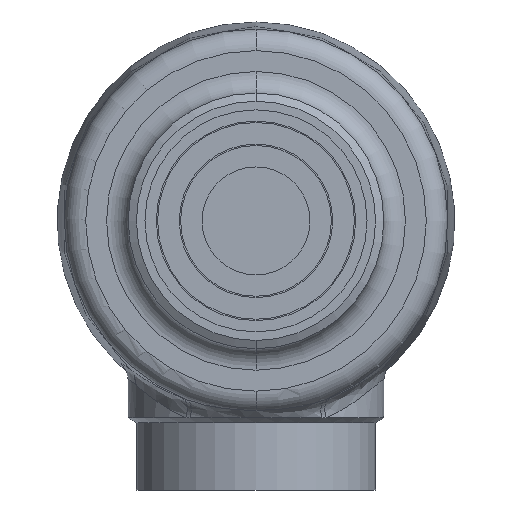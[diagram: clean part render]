
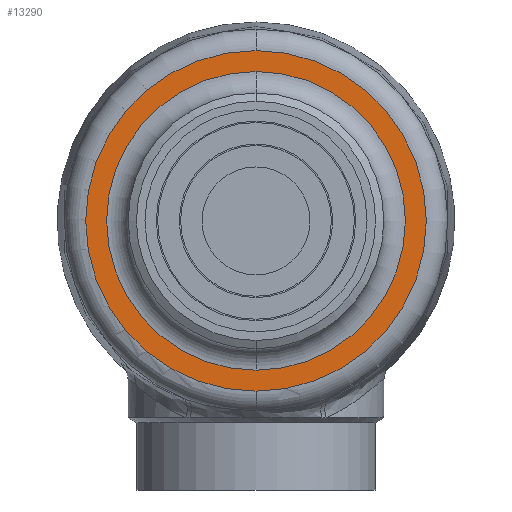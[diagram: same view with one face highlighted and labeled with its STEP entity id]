
A CAD part, front view. The second image highlights one B-rep face of the part: STEP entity #13290.
In plain terms, the highlighted planar face has unit normal (0, -1, 0).
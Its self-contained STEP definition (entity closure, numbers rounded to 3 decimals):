
#250 = CARTESIAN_POINT ( 'NONE',  ( 0., -129., -63.274 ) ) ;
#1872 = VERTEX_POINT ( 'NONE', #15174 ) ;
#2786 = ORIENTED_EDGE ( 'NONE', *, *, #8197, .T. ) ;
#2899 = CIRCLE ( 'NONE', #2900, 63.274 ) ;
#2900 = AXIS2_PLACEMENT_3D ( 'NONE', #2901, #2902, #2903 ) ;
#2901 = CARTESIAN_POINT ( 'NONE',  ( 0., -129., 0. ) ) ;
#2902 = DIRECTION ( 'NONE',  ( 0., -1., 0. ) ) ;
#2903 = DIRECTION ( 'NONE',  ( 0., 0., -1. ) ) ;
#3452 = VERTEX_POINT ( 'NONE', #250 ) ;
#3574 = FACE_BOUND ( 'NONE', #13091, .T. ) ;
#3575 = FACE_OUTER_BOUND ( 'NONE', #8800, .T. ) ;
#3576 = PLANE ( 'NONE',  #3579 ) ;
#3579 = AXIS2_PLACEMENT_3D ( 'NONE', #3580, #3581, #3582 ) ;
#3580 = CARTESIAN_POINT ( 'NONE',  ( 0., -129., 0. ) ) ;
#3581 = DIRECTION ( 'NONE',  ( 0., -1., 0. ) ) ;
#3582 = DIRECTION ( 'NONE',  ( 0., 0., -1. ) ) ;
#3966 = CIRCLE ( 'NONE', #3967, 55.5 ) ;
#3967 = AXIS2_PLACEMENT_3D ( 'NONE', #3968, #3969, #3970 ) ;
#3968 = CARTESIAN_POINT ( 'NONE',  ( 0., -129., 0. ) ) ;
#3969 = DIRECTION ( 'NONE',  ( 0., 1., 0. ) ) ;
#3970 = DIRECTION ( 'NONE',  ( 0., 0., -1. ) ) ;
#3990 = CARTESIAN_POINT ( 'NONE',  ( 0., -129., 63.274 ) ) ;
#4035 = CIRCLE ( 'NONE', #4036, 63.274 ) ;
#4036 = AXIS2_PLACEMENT_3D ( 'NONE', #4037, #4038, #4039 ) ;
#4037 = CARTESIAN_POINT ( 'NONE',  ( 0., -129., 0. ) ) ;
#4038 = DIRECTION ( 'NONE',  ( 0., -1., 0. ) ) ;
#4039 = DIRECTION ( 'NONE',  ( 0., 0., -1. ) ) ;
#5594 = ORIENTED_EDGE ( 'NONE', *, *, #13328, .T. ) ;
#8197 = EDGE_CURVE ( 'NONE', #3452, #9057, #2899, .T. ) ;
#8800 = EDGE_LOOP ( 'NONE', ( #2786, #5594 ) ) ;
#9038 = EDGE_CURVE ( 'NONE', #11251, #1872, #3966, .T. ) ;
#9057 = VERTEX_POINT ( 'NONE', #3990 ) ;
#9401 = ORIENTED_EDGE ( 'NONE', *, *, #9038, .T. ) ;
#9871 = ORIENTED_EDGE ( 'NONE', *, *, #10663, .T. ) ;
#10663 = EDGE_CURVE ( 'NONE', #1872, #11251, #14957, .T. ) ;
#11251 = VERTEX_POINT ( 'NONE', #15361 ) ;
#13091 = EDGE_LOOP ( 'NONE', ( #9871, #9401 ) ) ;
#13290 = ADVANCED_FACE ( 'NONE', ( #3574, #3575 ), #3576, .T. ) ;
#13328 = EDGE_CURVE ( 'NONE', #9057, #3452, #4035, .T. ) ;
#14957 = CIRCLE ( 'NONE', #14960, 55.5 ) ;
#14960 = AXIS2_PLACEMENT_3D ( 'NONE', #14961, #14962, #14963 ) ;
#14961 = CARTESIAN_POINT ( 'NONE',  ( 0., -129., 0. ) ) ;
#14962 = DIRECTION ( 'NONE',  ( 0., 1., 0. ) ) ;
#14963 = DIRECTION ( 'NONE',  ( 0., 0., -1. ) ) ;
#15174 = CARTESIAN_POINT ( 'NONE',  ( 0., -129., -55.5 ) ) ;
#15361 = CARTESIAN_POINT ( 'NONE',  ( 0., -129., 55.5 ) ) ;
